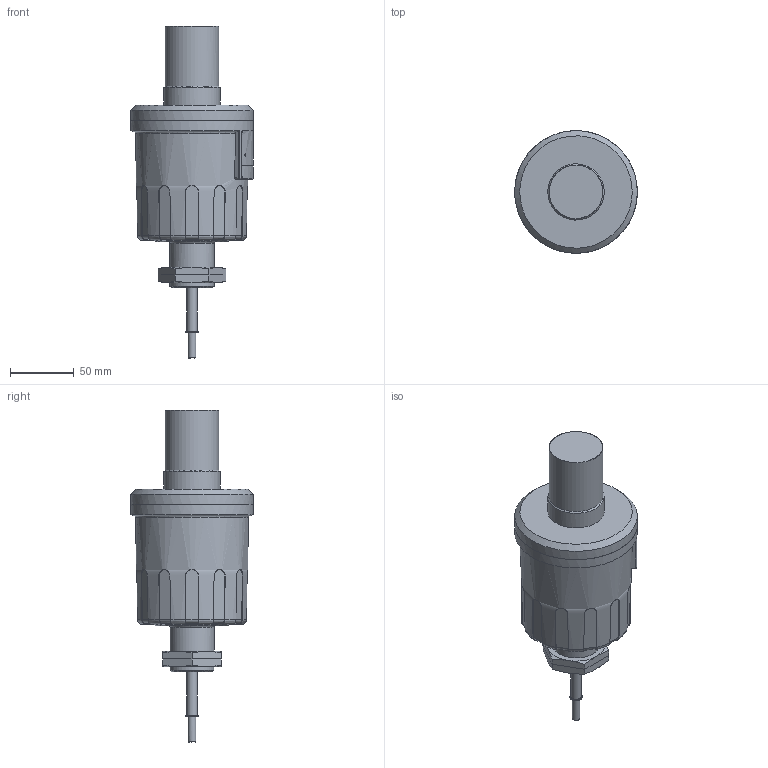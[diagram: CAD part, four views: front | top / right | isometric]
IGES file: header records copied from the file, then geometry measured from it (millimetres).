
Global section: file name: SP_390; native system: Autodesk Inventor 2015; preprocessor: unknown; author: aantal; date: 20150623.094607; units: millimetre
Bounding box: 96 x 95.99 x 260 mm (x, y, z)
Volume: 783038.1 mm3; surface area: 84082.7 mm2
Topology: 5 solids, 5 shells, 291 faces, 769 edges, 508 vertices
Faces by surface type: bspline 291
